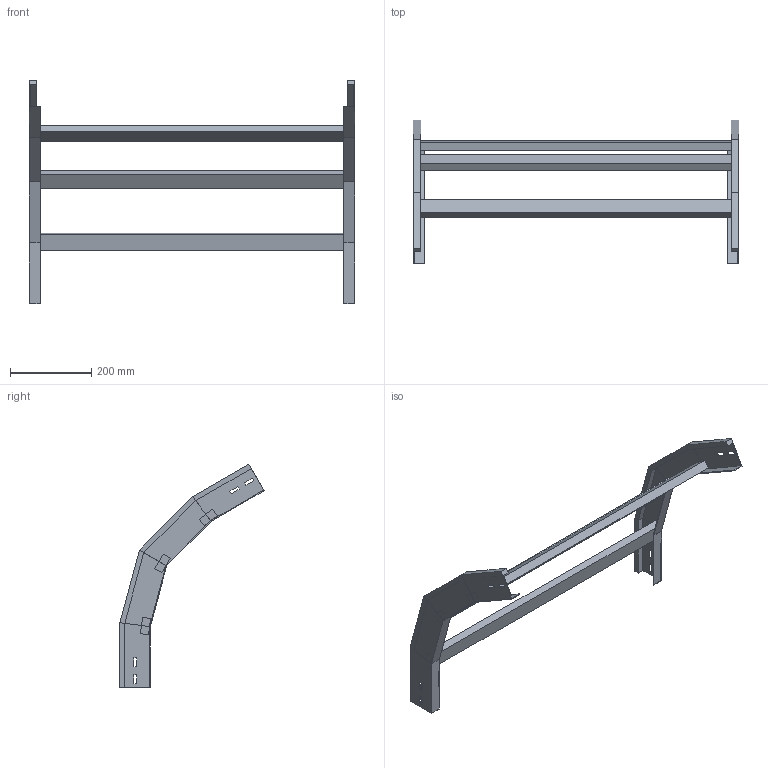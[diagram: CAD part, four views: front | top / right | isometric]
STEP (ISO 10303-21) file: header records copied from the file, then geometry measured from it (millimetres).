
FILE_DESCRIPTION (( 'STEP AP214' ), '1' );
FILE_NAME ('A2_41B3C800.step', '2025-02-21T15:00:16', ( '' ), ( '' ), 'SwSTEP 2.0', 'SolidWorks 2023', '' );
FILE_SCHEMA (( 'AUTOMOTIVE_DESIGN' ));
Length unit declared in the file: millimetre
Products named in the file (3): LONGH.DISCESA_60°_H75_R300; A2_41B3C800; TRAVERSINO_800
Assembly tree (5 placements, depth 2):
  A2_41B3C800
    LONGH.DISCESA_60°_H75_R300  x2
    TRAVERSINO_800  x3
Bounding box: 800 x 354.62 x 549.27 mm (x, y, z)
Volume: 2450267.7 mm3; surface area: 598830.3 mm2
Topology: 5 solids, 5 shells, 118 faces, 276 edges, 168 vertices
Faces by surface type: plane 118
Entity records: 1672 total; most frequent: CARTESIAN_POINT 276, ORIENTED_EDGE 264, DIRECTION 260, VECTOR 132, LINE 132, EDGE_CURVE 132, VERTEX_POINT 80, AXIS2_PLACEMENT_3D 64
